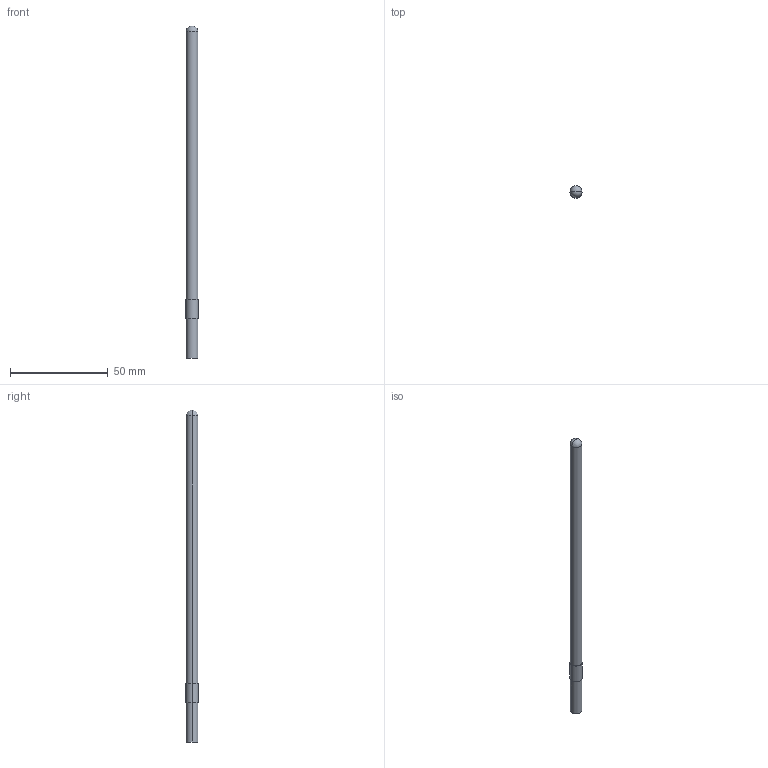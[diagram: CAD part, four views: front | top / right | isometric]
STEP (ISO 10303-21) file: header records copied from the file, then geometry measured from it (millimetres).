
FILE_DESCRIPTION (( 'STEP AP203' ), '1' );
FILE_NAME ('HTF150-PT1000-PVC-2.STEP', '2019-10-08T11:52:51', ( '' ), ( '' ), 'SwSTEP 2.0', 'SolidWorks 2016', '' );
FILE_SCHEMA (( 'CONFIG_CONTROL_DESIGN' ));
Length unit declared in the file: millimetre
Products named in the file (1): HTF150-PT1000-PVC-2
Bounding box: 6.2 x 6.2 x 170 mm (x, y, z)
Volume: 4797.5 mm3; surface area: 3242.8 mm2
Topology: 1 solids, 1 shells, 11 faces, 24 edges, 15 vertices
Faces by surface type: cylinder 6, plane 3, sphere 2
Entity records: 357 total; most frequent: DIRECTION 58, CARTESIAN_POINT 45, ORIENTED_EDGE 40, AXIS2_PLACEMENT_3D 26, EDGE_CURVE 20, CIRCLE 14, VERTEX_POINT 13, EDGE_LOOP 13
